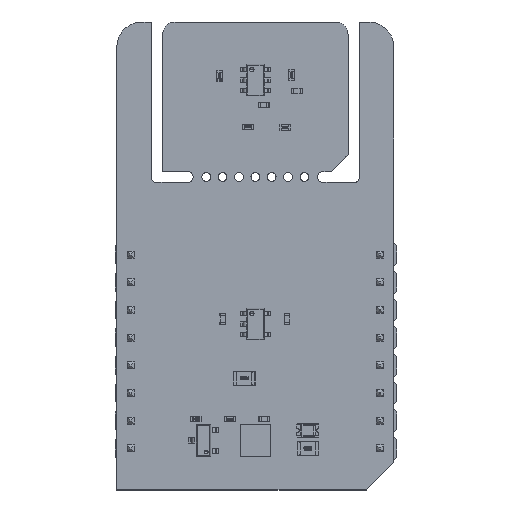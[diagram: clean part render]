
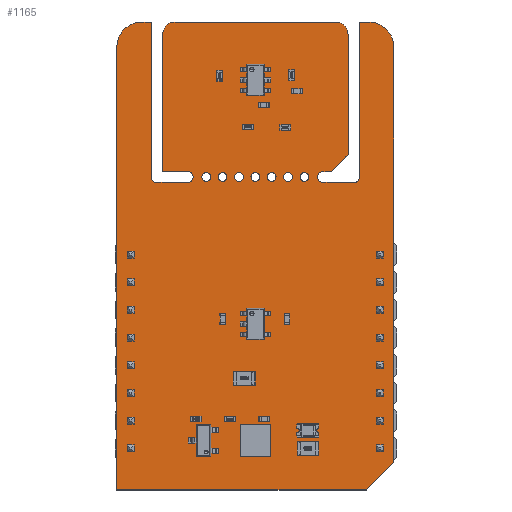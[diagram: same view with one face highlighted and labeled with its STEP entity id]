
A CAD part, top view. The second image highlights one B-rep face of the part: STEP entity #1165.
In plain terms, the highlighted planar face has unit normal (0, 0, 1).
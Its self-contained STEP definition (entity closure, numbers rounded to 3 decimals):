
#128 = VERTEX_POINT('',#129);
#129 = CARTESIAN_POINT('',(1.905,24.8,1.59));
#135 = EDGE_CURVE('',#128,#136,#138,.T.);
#136 = VERTEX_POINT('',#137);
#137 = CARTESIAN_POINT('',(2.305,24.4,1.59));
#138 = CIRCLE('',#139,0.399);
#139 = AXIS2_PLACEMENT_3D('',#140,#141,#142);
#140 = CARTESIAN_POINT('',(2.304,24.799,1.59));
#141 = DIRECTION('',(0.,0.,1.));
#142 = DIRECTION('',(-1.,0.001,0.));
#168 = EDGE_CURVE('',#136,#169,#171,.T.);
#169 = VERTEX_POINT('',#170);
#170 = CARTESIAN_POINT('',(5.23,24.4,1.59));
#171 = LINE('',#172,#173);
#172 = CARTESIAN_POINT('',(2.305,24.4,1.59));
#173 = VECTOR('',#174,1.);
#174 = DIRECTION('',(1.,0.,0.));
#199 = EDGE_CURVE('',#169,#200,#202,.T.);
#200 = VERTEX_POINT('',#201);
#201 = CARTESIAN_POINT('',(5.23,25.4,1.59));
#202 = CIRCLE('',#203,0.5);
#203 = AXIS2_PLACEMENT_3D('',#204,#205,#206);
#204 = CARTESIAN_POINT('',(5.23,24.9,1.59));
#205 = DIRECTION('',(0.,0.,1.));
#206 = DIRECTION('',(-0.,-1.,0.));
#232 = EDGE_CURVE('',#200,#233,#235,.T.);
#233 = VERTEX_POINT('',#234);
#234 = CARTESIAN_POINT('',(2.921,25.4,1.59));
#235 = LINE('',#236,#237);
#236 = CARTESIAN_POINT('',(5.23,25.4,1.59));
#237 = VECTOR('',#238,1.);
#238 = DIRECTION('',(-1.,0.,0.));
#263 = EDGE_CURVE('',#233,#264,#266,.T.);
#264 = VERTEX_POINT('',#265);
#265 = CARTESIAN_POINT('',(2.921,37.973,1.59));
#266 = LINE('',#267,#268);
#267 = CARTESIAN_POINT('',(2.921,25.4,1.59));
#268 = VECTOR('',#269,1.);
#269 = DIRECTION('',(0.,1.,0.));
#294 = EDGE_CURVE('',#264,#295,#297,.T.);
#295 = VERTEX_POINT('',#296);
#296 = CARTESIAN_POINT('',(4.064,39.116,1.59));
#297 = CIRCLE('',#298,1.144);
#298 = AXIS2_PLACEMENT_3D('',#299,#300,#301);
#299 = CARTESIAN_POINT('',(4.065,37.972,1.59));
#300 = DIRECTION('',(0.,0.,-1.));
#301 = DIRECTION('',(-1.,0.001,0.));
#327 = EDGE_CURVE('',#295,#328,#330,.T.);
#328 = VERTEX_POINT('',#329);
#329 = CARTESIAN_POINT('',(18.796,39.116,1.59));
#330 = LINE('',#331,#332);
#331 = CARTESIAN_POINT('',(4.064,39.116,1.59));
#332 = VECTOR('',#333,1.);
#333 = DIRECTION('',(1.,0.,0.));
#358 = EDGE_CURVE('',#328,#359,#361,.T.);
#359 = VERTEX_POINT('',#360);
#360 = CARTESIAN_POINT('',(19.939,37.973,1.59));
#361 = CIRCLE('',#362,1.144);
#362 = AXIS2_PLACEMENT_3D('',#363,#364,#365);
#363 = CARTESIAN_POINT('',(18.795,37.972,1.59));
#364 = DIRECTION('',(0.,0.,-1.));
#365 = DIRECTION('',(0.001,1.,0.));
#391 = EDGE_CURVE('',#359,#392,#394,.T.);
#392 = VERTEX_POINT('',#393);
#393 = CARTESIAN_POINT('',(19.939,26.924,1.59));
#394 = LINE('',#395,#396);
#395 = CARTESIAN_POINT('',(19.939,37.973,1.59));
#396 = VECTOR('',#397,1.);
#397 = DIRECTION('',(0.,-1.,0.));
#422 = EDGE_CURVE('',#392,#423,#425,.T.);
#423 = VERTEX_POINT('',#424);
#424 = CARTESIAN_POINT('',(18.415,25.4,1.59));
#425 = LINE('',#426,#427);
#426 = CARTESIAN_POINT('',(19.939,26.924,1.59));
#427 = VECTOR('',#428,1.);
#428 = DIRECTION('',(-0.707,-0.707,0.));
#453 = EDGE_CURVE('',#423,#454,#456,.T.);
#454 = VERTEX_POINT('',#455);
#455 = CARTESIAN_POINT('',(17.63,25.4,1.59));
#456 = LINE('',#457,#458);
#457 = CARTESIAN_POINT('',(18.415,25.4,1.59));
#458 = VECTOR('',#459,1.);
#459 = DIRECTION('',(-1.,0.,0.));
#484 = EDGE_CURVE('',#454,#485,#487,.T.);
#485 = VERTEX_POINT('',#486);
#486 = CARTESIAN_POINT('',(17.63,24.4,1.59));
#487 = CIRCLE('',#488,0.5);
#488 = AXIS2_PLACEMENT_3D('',#489,#490,#491);
#489 = CARTESIAN_POINT('',(17.63,24.9,1.59));
#490 = DIRECTION('',(0.,-0.,1.));
#491 = DIRECTION('',(0.,1.,0.));
#517 = EDGE_CURVE('',#485,#518,#520,.T.);
#518 = VERTEX_POINT('',#519);
#519 = CARTESIAN_POINT('',(20.555,24.4,1.59));
#520 = LINE('',#521,#522);
#521 = CARTESIAN_POINT('',(17.63,24.4,1.59));
#522 = VECTOR('',#523,1.);
#523 = DIRECTION('',(1.,0.,0.));
#548 = EDGE_CURVE('',#518,#549,#551,.T.);
#549 = VERTEX_POINT('',#550);
#550 = CARTESIAN_POINT('',(20.955,24.8,1.59));
#551 = CIRCLE('',#552,0.399);
#552 = AXIS2_PLACEMENT_3D('',#553,#554,#555);
#553 = CARTESIAN_POINT('',(20.556,24.799,1.59));
#554 = DIRECTION('',(0.,0.,1.));
#555 = DIRECTION('',(-0.001,-1.,0.));
#581 = EDGE_CURVE('',#549,#582,#584,.T.);
#582 = VERTEX_POINT('',#583);
#583 = CARTESIAN_POINT('',(20.955,39.116,1.59));
#584 = LINE('',#585,#586);
#585 = CARTESIAN_POINT('',(20.955,24.8,1.59));
#586 = VECTOR('',#587,1.);
#587 = DIRECTION('',(0.,1.,0.));
#612 = EDGE_CURVE('',#582,#613,#615,.T.);
#613 = VERTEX_POINT('',#614);
#614 = CARTESIAN_POINT('',(21.844,39.116,1.59));
#615 = LINE('',#616,#617);
#616 = CARTESIAN_POINT('',(20.955,39.116,1.59));
#617 = VECTOR('',#618,1.);
#618 = DIRECTION('',(1.,0.,0.));
#643 = EDGE_CURVE('',#613,#644,#646,.T.);
#644 = VERTEX_POINT('',#645);
#645 = CARTESIAN_POINT('',(24.13,36.83,1.59));
#646 = CIRCLE('',#647,2.288);
#647 = AXIS2_PLACEMENT_3D('',#648,#649,#650);
#648 = CARTESIAN_POINT('',(21.842,36.828,1.59));
#649 = DIRECTION('',(0.,0.,-1.));
#650 = DIRECTION('',(0.001,1.,0.));
#676 = EDGE_CURVE('',#644,#677,#679,.T.);
#677 = VERTEX_POINT('',#678);
#678 = CARTESIAN_POINT('',(24.13,-1.27,1.59));
#679 = LINE('',#680,#681);
#680 = CARTESIAN_POINT('',(24.13,36.83,1.59));
#681 = VECTOR('',#682,1.);
#682 = DIRECTION('',(0.,-1.,0.));
#707 = EDGE_CURVE('',#677,#708,#710,.T.);
#708 = VERTEX_POINT('',#709);
#709 = CARTESIAN_POINT('',(21.59,-3.81,1.59));
#710 = LINE('',#711,#712);
#711 = CARTESIAN_POINT('',(24.13,-1.27,1.59));
#712 = VECTOR('',#713,1.);
#713 = DIRECTION('',(-0.707,-0.707,0.));
#738 = EDGE_CURVE('',#708,#739,#741,.T.);
#739 = VERTEX_POINT('',#740);
#740 = CARTESIAN_POINT('',(-1.27,-3.81,1.59));
#741 = LINE('',#742,#743);
#742 = CARTESIAN_POINT('',(21.59,-3.81,1.59));
#743 = VECTOR('',#744,1.);
#744 = DIRECTION('',(-1.,0.,0.));
#769 = EDGE_CURVE('',#739,#770,#772,.T.);
#770 = VERTEX_POINT('',#771);
#771 = CARTESIAN_POINT('',(-1.27,36.83,1.59));
#772 = LINE('',#773,#774);
#773 = CARTESIAN_POINT('',(-1.27,-3.81,1.59));
#774 = VECTOR('',#775,1.);
#775 = DIRECTION('',(0.,1.,0.));
#800 = EDGE_CURVE('',#770,#801,#803,.T.);
#801 = VERTEX_POINT('',#802);
#802 = CARTESIAN_POINT('',(1.016,39.116,1.59));
#803 = CIRCLE('',#804,2.288);
#804 = AXIS2_PLACEMENT_3D('',#805,#806,#807);
#805 = CARTESIAN_POINT('',(1.018,36.828,1.59));
#806 = DIRECTION('',(0.,0.,-1.));
#807 = DIRECTION('',(-1.,0.001,0.));
#833 = EDGE_CURVE('',#801,#834,#836,.T.);
#834 = VERTEX_POINT('',#835);
#835 = CARTESIAN_POINT('',(1.905,39.116,1.59));
#836 = LINE('',#837,#838);
#837 = CARTESIAN_POINT('',(1.016,39.116,1.59));
#838 = VECTOR('',#839,1.);
#839 = DIRECTION('',(1.,0.,0.));
#864 = EDGE_CURVE('',#834,#128,#865,.T.);
#865 = LINE('',#866,#867);
#866 = CARTESIAN_POINT('',(1.905,39.116,1.59));
#867 = VECTOR('',#868,1.);
#868 = DIRECTION('',(0.,-1.,0.));
#888 = VERTEX_POINT('',#889);
#889 = CARTESIAN_POINT('',(10.33,24.9,1.59));
#895 = EDGE_CURVE('',#888,#888,#896,.T.);
#896 = CIRCLE('',#897,0.4);
#897 = AXIS2_PLACEMENT_3D('',#898,#899,#900);
#898 = CARTESIAN_POINT('',(9.93,24.9,1.59));
#899 = DIRECTION('',(0.,0.,1.));
#900 = DIRECTION('',(1.,0.,-0.));
#921 = VERTEX_POINT('',#922);
#922 = CARTESIAN_POINT('',(7.33,24.9,1.59));
#928 = EDGE_CURVE('',#921,#921,#929,.T.);
#929 = CIRCLE('',#930,0.4);
#930 = AXIS2_PLACEMENT_3D('',#931,#932,#933);
#931 = CARTESIAN_POINT('',(6.93,24.9,1.59));
#932 = DIRECTION('',(0.,0.,1.));
#933 = DIRECTION('',(1.,0.,-0.));
#954 = VERTEX_POINT('',#955);
#955 = CARTESIAN_POINT('',(8.83,24.9,1.59));
#961 = EDGE_CURVE('',#954,#954,#962,.T.);
#962 = CIRCLE('',#963,0.4);
#963 = AXIS2_PLACEMENT_3D('',#964,#965,#966);
#964 = CARTESIAN_POINT('',(8.43,24.9,1.59));
#965 = DIRECTION('',(0.,0.,1.));
#966 = DIRECTION('',(1.,0.,-0.));
#987 = VERTEX_POINT('',#988);
#988 = CARTESIAN_POINT('',(14.83,24.9,1.59));
#994 = EDGE_CURVE('',#987,#987,#995,.T.);
#995 = CIRCLE('',#996,0.4);
#996 = AXIS2_PLACEMENT_3D('',#997,#998,#999);
#997 = CARTESIAN_POINT('',(14.43,24.9,1.59));
#998 = DIRECTION('',(0.,0.,1.));
#999 = DIRECTION('',(1.,0.,-0.));
#1020 = VERTEX_POINT('',#1021);
#1021 = CARTESIAN_POINT('',(16.33,24.9,1.59));
#1027 = EDGE_CURVE('',#1020,#1020,#1028,.T.);
#1028 = CIRCLE('',#1029,0.4);
#1029 = AXIS2_PLACEMENT_3D('',#1030,#1031,#1032);
#1030 = CARTESIAN_POINT('',(15.93,24.9,1.59));
#1031 = DIRECTION('',(0.,0.,1.));
#1032 = DIRECTION('',(1.,0.,-0.));
#1053 = VERTEX_POINT('',#1054);
#1054 = CARTESIAN_POINT('',(11.83,24.9,1.59));
#1060 = EDGE_CURVE('',#1053,#1053,#1061,.T.);
#1061 = CIRCLE('',#1062,0.4);
#1062 = AXIS2_PLACEMENT_3D('',#1063,#1064,#1065);
#1063 = CARTESIAN_POINT('',(11.43,24.9,1.59));
#1064 = DIRECTION('',(0.,0.,1.));
#1065 = DIRECTION('',(1.,0.,-0.));
#1086 = VERTEX_POINT('',#1087);
#1087 = CARTESIAN_POINT('',(13.33,24.9,1.59));
#1093 = EDGE_CURVE('',#1086,#1086,#1094,.T.);
#1094 = CIRCLE('',#1095,0.4);
#1095 = AXIS2_PLACEMENT_3D('',#1096,#1097,#1098);
#1096 = CARTESIAN_POINT('',(12.93,24.9,1.59));
#1097 = DIRECTION('',(0.,0.,1.));
#1098 = DIRECTION('',(1.,0.,-0.));
#1165 = ADVANCED_FACE('',(#1166,#1192,#1195,#1198,#1201,#1204,#1207,
    #1210),#1213,.F.);
#1166 = FACE_BOUND('',#1167,.F.);
#1167 = EDGE_LOOP('',(#1168,#1169,#1170,#1171,#1172,#1173,#1174,#1175,
    #1176,#1177,#1178,#1179,#1180,#1181,#1182,#1183,#1184,#1185,#1186,
    #1187,#1188,#1189,#1190,#1191));
#1168 = ORIENTED_EDGE('',*,*,#135,.T.);
#1169 = ORIENTED_EDGE('',*,*,#168,.T.);
#1170 = ORIENTED_EDGE('',*,*,#199,.T.);
#1171 = ORIENTED_EDGE('',*,*,#232,.T.);
#1172 = ORIENTED_EDGE('',*,*,#263,.T.);
#1173 = ORIENTED_EDGE('',*,*,#294,.T.);
#1174 = ORIENTED_EDGE('',*,*,#327,.T.);
#1175 = ORIENTED_EDGE('',*,*,#358,.T.);
#1176 = ORIENTED_EDGE('',*,*,#391,.T.);
#1177 = ORIENTED_EDGE('',*,*,#422,.T.);
#1178 = ORIENTED_EDGE('',*,*,#453,.T.);
#1179 = ORIENTED_EDGE('',*,*,#484,.T.);
#1180 = ORIENTED_EDGE('',*,*,#517,.T.);
#1181 = ORIENTED_EDGE('',*,*,#548,.T.);
#1182 = ORIENTED_EDGE('',*,*,#581,.T.);
#1183 = ORIENTED_EDGE('',*,*,#612,.T.);
#1184 = ORIENTED_EDGE('',*,*,#643,.T.);
#1185 = ORIENTED_EDGE('',*,*,#676,.T.);
#1186 = ORIENTED_EDGE('',*,*,#707,.T.);
#1187 = ORIENTED_EDGE('',*,*,#738,.T.);
#1188 = ORIENTED_EDGE('',*,*,#769,.T.);
#1189 = ORIENTED_EDGE('',*,*,#800,.T.);
#1190 = ORIENTED_EDGE('',*,*,#833,.T.);
#1191 = ORIENTED_EDGE('',*,*,#864,.T.);
#1192 = FACE_BOUND('',#1193,.F.);
#1193 = EDGE_LOOP('',(#1194));
#1194 = ORIENTED_EDGE('',*,*,#895,.T.);
#1195 = FACE_BOUND('',#1196,.F.);
#1196 = EDGE_LOOP('',(#1197));
#1197 = ORIENTED_EDGE('',*,*,#928,.T.);
#1198 = FACE_BOUND('',#1199,.F.);
#1199 = EDGE_LOOP('',(#1200));
#1200 = ORIENTED_EDGE('',*,*,#961,.T.);
#1201 = FACE_BOUND('',#1202,.F.);
#1202 = EDGE_LOOP('',(#1203));
#1203 = ORIENTED_EDGE('',*,*,#994,.T.);
#1204 = FACE_BOUND('',#1205,.F.);
#1205 = EDGE_LOOP('',(#1206));
#1206 = ORIENTED_EDGE('',*,*,#1027,.T.);
#1207 = FACE_BOUND('',#1208,.F.);
#1208 = EDGE_LOOP('',(#1209));
#1209 = ORIENTED_EDGE('',*,*,#1060,.T.);
#1210 = FACE_BOUND('',#1211,.F.);
#1211 = EDGE_LOOP('',(#1212));
#1212 = ORIENTED_EDGE('',*,*,#1093,.T.);
#1213 = PLANE('',#1214);
#1214 = AXIS2_PLACEMENT_3D('',#1215,#1216,#1217);
#1215 = CARTESIAN_POINT('',(11.288,21.814,1.59));
#1216 = DIRECTION('',(-0.,-0.,-1.));
#1217 = DIRECTION('',(-1.,0.,0.));
